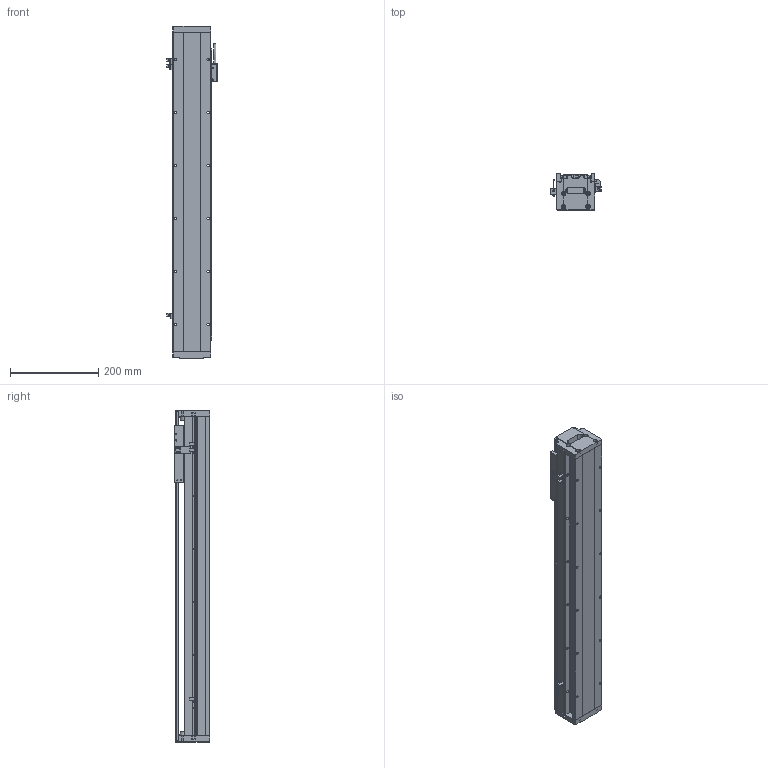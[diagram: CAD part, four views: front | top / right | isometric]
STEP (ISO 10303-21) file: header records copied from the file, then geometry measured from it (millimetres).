
FILE_DESCRIPTION (( 'STEP AP214' ), '1' );
FILE_NAME ('STC086-A-P-0554-F105-MB-010-0.3.STEP', '2023-05-11T02:47:35', ( '' ), ( '' ), 'SwSTEP 2.0', 'SolidWorks 2018', '' );
FILE_SCHEMA (( 'AUTOMOTIVE_DESIGN' ));
Length unit declared in the file: millimetre
Products named in the file (43): STK0066-001（086端盖）; SF-202NA-W（光电开关）; STK080-F105賑怢蚾饜极; 蝶菜17x14x10; 086-Lxxxx菁釱; 絳寢SRS12M+xxxxL-G10; STK0086-001（086读头固定块）; 賑輸SRS12M; STC086-A-P-0554-F105-MB-010-0.3; 086-SE1-040-S賑怢; HC-U-02-Lxxx棠掑喜; SE040隅赽; STK0112-01（感应片）(默认); LMD-2-R001-V5-L0.3-C0-F00（磁栅编码器）; 086-Lxxxx裔啣; STK013-01（磁栅压块）; SKT0112-02（线缆固定件）
Assembly tree (27 placements, depth 3):
  STK0066-001（086端盖）
  SF-202NA-W（光电开关）
  蝶菜17x14x10
  086-Lxxxx菁釱
  絳寢SRS12M+xxxxL-G10
Bounding box: 114.4 x 81 x 752 mm (x, y, z)
Volume: 2437777.9 mm3; surface area: 770553.6 mm2
Topology: 26 solids, 26 shells, 1888 faces, 5224 edges, 3333 vertices
Faces by surface type: plane 913, cylinder 791, cone 160, torus 14, bspline 6, sphere 4
Entity records: 44518 total; most frequent: CARTESIAN_POINT 8930, ORIENTED_EDGE 7182, DIRECTION 7181, EDGE_CURVE 3591, AXIS2_PLACEMENT_3D 2510, VERTEX_POINT 2351, VECTOR 2161, LINE 2161
